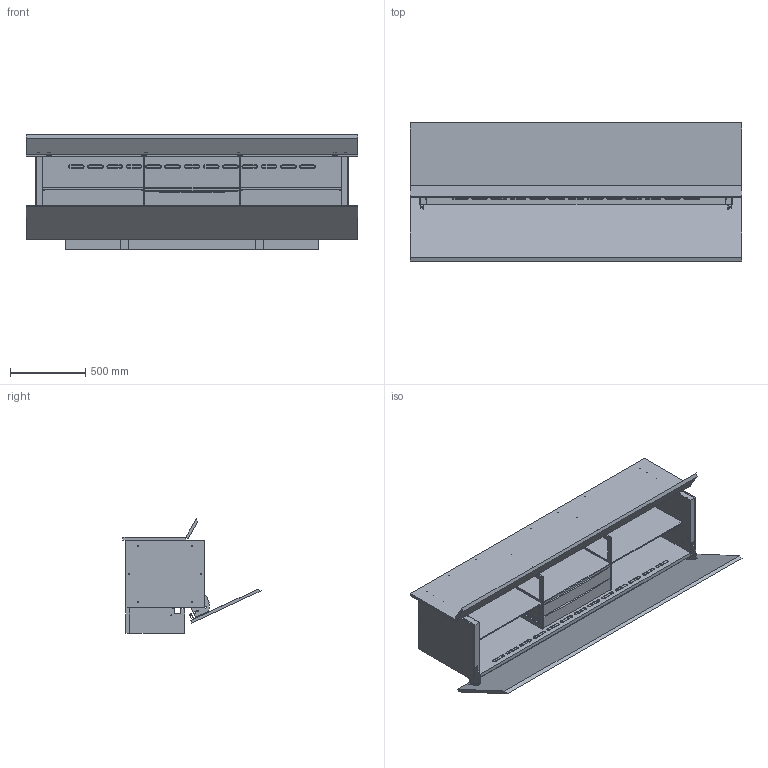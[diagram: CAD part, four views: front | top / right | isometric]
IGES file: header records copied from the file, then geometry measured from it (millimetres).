
Global section: file name: C:\Users\prell\Desktop\Ludwig 220.igs; native system: Rhinoceros ( May  7 2019 ); preprocessor: Trout Lake IGES 012 May  7 2019; date: 210831.123250; units: millimetre
Bounding box: 2200 x 916.1 x 762.84 mm (x, y, z)
Volume: 138831447.2 mm3; surface area: 17458326.6 mm2
Topology: 65 solids, 65 shells, 2247 faces, 5220 edges, 3350 vertices
Faces by surface type: bspline 2247
